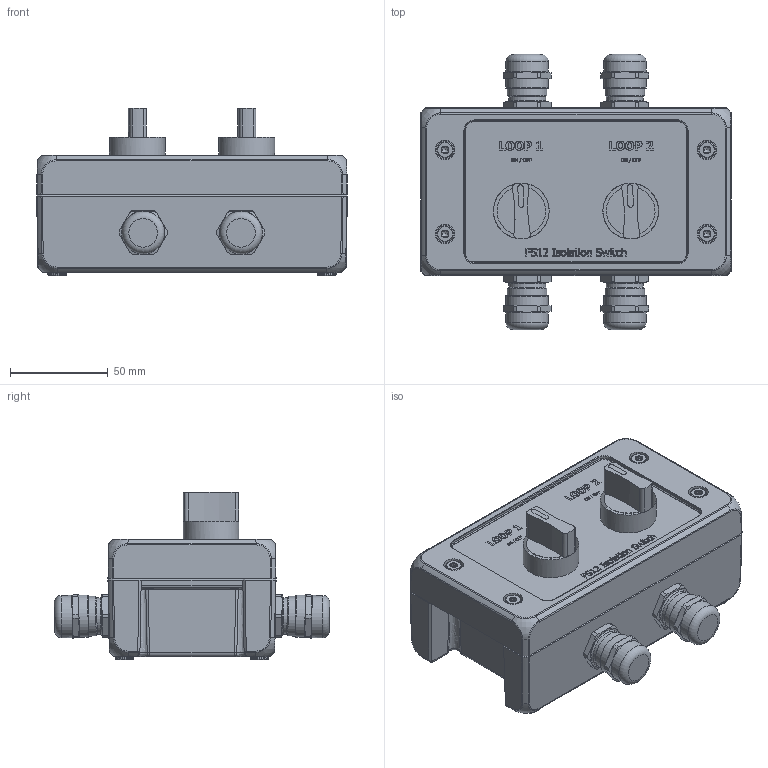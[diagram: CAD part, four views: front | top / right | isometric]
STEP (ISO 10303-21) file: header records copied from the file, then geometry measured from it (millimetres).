
FILE_DESCRIPTION(/* description */ ('FS12'),/* implementation_level */ '2;1');
FILE_NAME(/* name */ 'C:\Users\tokti\AppData\Local\Temp\syd0nfia.kh3\2878010012273.stp',/* time_stamp */ '2023-05-09T16:42:58+02:00',/* author */ ('thp'),/* organization */ (''),/* preprocessor_version */ 'ST-DEVELOPER v18.1',/* originating_system */ 'Autodesk Inventor 2020',/* authorisation */ '');
FILE_SCHEMA (('AUTOMOTIVE_DESIGN { 1 0 10303 214 3 1 1 }'));
Products named in the file (5): 2878010012273; 287898010012275; 287898990012271; 287899020012272; 287898030012282
Assembly tree (8 placements, depth 2):
  2878010012273
    287898010012275
    287898990012271
    287899020012272  x2
    287898030012282  x4
Bounding box: 159 x 140.91 x 85.51 mm (x, y, z)
Volume: 355720.4 mm3; surface area: 189460.6 mm2
Topology: 13 solids, 13 shells, 3651 faces, 9352 edges, 5953 vertices
Faces by surface type: plane 1790, bspline 819, cylinder 621, cone 263, torus 122, sphere 36
Full cylindrical faces by diameter (mm): 3.242 x14, 4 x6, 4.134 x4, 4.4 x4, 5 x4, 5.4 x2, 5.462 x2, 5.476 x1, 5.5 x1, 6 x16, 6.8 x2, 18.3 x4, 18.96 x4, 19.85 x4, 20.3 x4, 21.7 x8, 21.75 x2, 28.5 x2
Entity records: 145397 total; most frequent: CARTESIAN_POINT 72374, ORIENTED_EDGE 15552, DIRECTION 12615, EDGE_CURVE 7776, VERTEX_POINT 4956, LINE 4443, VECTOR 4443, AXIS2_PLACEMENT_3D 4086
